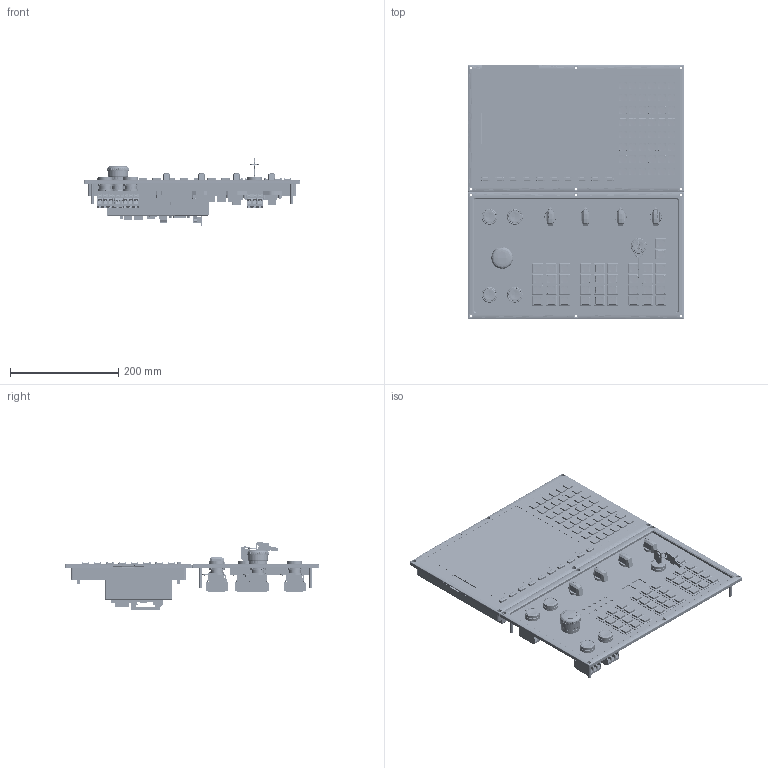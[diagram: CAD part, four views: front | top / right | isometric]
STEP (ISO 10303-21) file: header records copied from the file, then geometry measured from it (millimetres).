
FILE_DESCRIPTION (( 'STEP AP214' ), '1' );
FILE_NAME ('新款10.4塑料面板组装体.STEP', '2025-05-09T09:29:49', ( '' ), ( '' ), 'SwSTEP 2.0', 'SolidWorks 2018', '' );
FILE_SCHEMA (( 'AUTOMOTIVE_DESIGN' ));
Length unit declared in the file: millimetre
Products named in the file (37): 摒倰疏僇簽; 10.4key板_B1上下各减0.5; B1新10.4寸功能按键贴条; TFT-HDMI-RGB-V1; USBｸﾇ; 掛蕾畢鎢羲壽; 双色按键 PC+ABS 14x14（不可掀盖）; 陔髡夔偌瑩; 新横式按键板安装铁板; 铁壳牛角插头支撑件; 新款10.4塑料面板组装体; 陔10.4渡筵宒偌瑩啣PCB; ﾐﾂ10.4ｴ躑SB PCB; 全平面电阻式触控屏; PCB板; YW1B-V4-BODY; 新款10.4寸辅助板横式塑框; A6D-10屏幕固定铁板 V0.6; 零件1^新款10.4塑料面板组装体; 新款10.4寸铣床加工中心横式辅助板; YW1B-V4ER; YW1K-BODY; YW1B-M1-BODY; YW1B-M1E-A1E; YW-Exx(R); CPU-B1-G-V2; FW-LOCK-NUT; BA104S01-400; 3x8﹜15+6湍挴肣翐; 陔10.4珨极筵宒醱啣; 偌瑩晚遺; YW-CN(-N); 陔10.4渡筵宒笢啣; 8渡綴裔沺褲; YW1K-2AE-2BE-2CE-3AE-3BE-3CE; TFT-LVDS-RGB-V3_1
Assembly tree (189 placements, depth 4):
  新款10.4塑料面板组装体
    陔10.4珨极筵宒醱啣
    BA104S01-400
    全平面电阻式触控屏
    USBｸﾇ
    ﾐﾂ10.4ｴ躑SB PCB
    B1新10.4寸功能按键贴条
    10.4key板_B1上下各减0.5
    A6D-10屏幕固定铁板 V0.6
    陔髡夔偌瑩  x10
    新横式按键板安装铁板
    陔10.4渡筵宒偌瑩啣PCB
    3x8﹜15+6湍挴肣翐  x2
    陔10.4渡筵宒笢啣
    TFT-LVDS-RGB-V3_1
    8渡綴裔沺褲
    CPU-B1-G-V2
    铁壳牛角插头支撑件
    双色按键 PC+ABS 14x14（不可掀盖）  x48
    TFT-HDMI-RGB-V1
    新款10.4寸铣床加工中心横式辅助板
      新款10.4寸铣床加工中心横式辅助板
      新款10.4寸辅助板横式塑框
      掛蕾畢鎢羲壽  x4
      双色按键 PC+ABS 14x14（不可掀盖）  x38
      偌瑩晚遺  x38
      PCB板
      YW1B-M1E-A1E  x4
        YW1B-M1-BODY
        YW-CN(-N)
        YW-Exx(R)
        FW-LOCK-NUT
      YW1B-V4ER
        YW1B-V4-BODY
        YW-CN(-N)
        YW-Exx(R)  x3
        FW-LOCK-NUT
      YW1K-2AE-2BE-2CE-3AE-3BE-3CE
        YW1K-BODY
        YW-CN(-N)
        YW-Exx(R)  x3
        FW-LOCK-NUT
      摒倰疏僇簽  x4
    零件1^新款10.4塑料面板组装体
Bounding box: 400 x 470 x 127.48 mm (x, y, z)
Volume: 4407621.7 mm3; surface area: 2042222.2 mm2
Topology: 251 solids, 297 shells, 24944 faces, 67512 edges, 43908 vertices
Faces by surface type: plane 15484, cylinder 6024, bspline 1405, cone 851, sphere 640, torus 540
Full cylindrical faces by diameter (mm): 0.6 x28, 0.686 x52, 0.8 x15, 0.932 x1, 0.983 x3, 0.999 x1, 1.207 x8, 1.8 x6, 2.2 x15, 2.23 x1, 2.5 x50, 2.54 x6, 2.6 x39, 2.9 x4, 3 x118, 3.172 x2, 3.2 x4, 3.497 x1, 3.5 x93, 3.8 x2, 4 x30, 4.5 x17, 5 x39, 5.4 x23, 5.5 x16, 6 x10, 6.2 x36, 6.3 x4, 6.4 x72, 7 x38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
Entity records: 309353 total; most frequent: CARTESIAN_POINT 86248, ORIENTED_EDGE 45056, DIRECTION 42297, EDGE_CURVE 22528, VERTEX_POINT 15151, LINE 15147, VECTOR 15147, AXIS2_PLACEMENT_3D 13575
